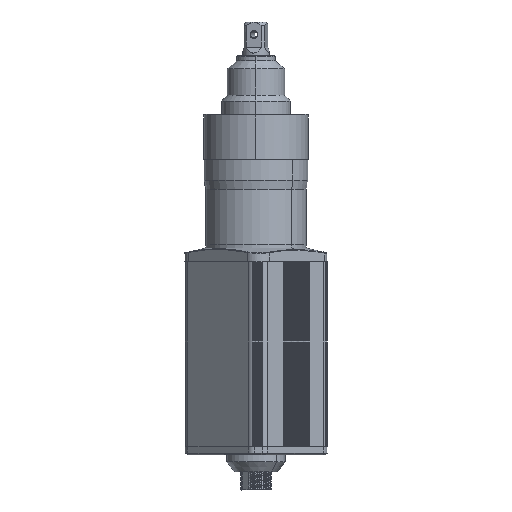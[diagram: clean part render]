
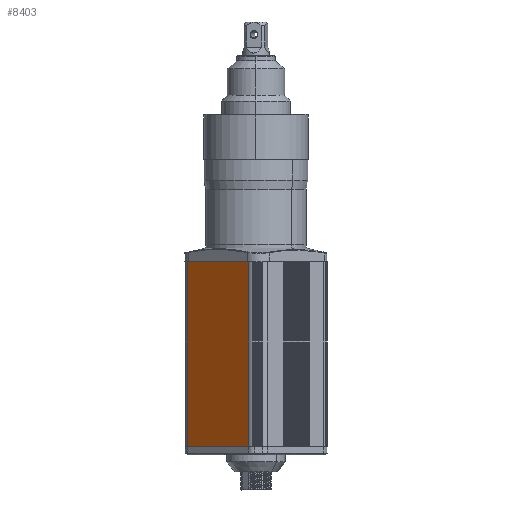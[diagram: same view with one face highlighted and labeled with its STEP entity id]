
A CAD part, left-side view. The second image highlights one B-rep face of the part: STEP entity #8403.
In plain terms, the highlighted planar face has unit normal (-0.707, 0.707, 0).
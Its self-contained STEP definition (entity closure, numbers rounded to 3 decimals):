
#97 = LINE ( 'NONE', #14692, #5560 ) ;
#946 = CARTESIAN_POINT ( 'NONE',  ( -4.293, 40.538, -60.5 ) ) ;
#1396 = CARTESIAN_POINT ( 'NONE',  ( -4.293, 40.538, -60.5 ) ) ;
#4142 = CARTESIAN_POINT ( 'NONE',  ( -4.293, 40.538, -60.5 ) ) ;
#5071 = DIRECTION ( 'NONE',  ( -0.707, -0.707, 0. ) ) ;
#5515 = EDGE_CURVE ( 'NONE', #9274, #23362, #31628, .T. ) ;
#5560 = VECTOR ( 'NONE', #14853, 1000. ) ;
#6119 = VECTOR ( 'NONE', #18591, 1000. ) ;
#6632 = ORIENTED_EDGE ( 'NONE', *, *, #18514, .T. ) ;
#6822 = VERTEX_POINT ( 'NONE', #25782 ) ;
#7027 = DIRECTION ( 'NONE',  ( 0., 0., 1. ) ) ;
#8403 = ADVANCED_FACE ( 'NONE', ( #21799 ), #27012, .F. ) ;
#9274 = VERTEX_POINT ( 'NONE', #946 ) ;
#9862 = CARTESIAN_POINT ( 'NONE',  ( -40.538, 4.293, -170.5 ) ) ;
#10069 = LINE ( 'NONE', #20451, #18448 ) ;
#11448 = DIRECTION ( 'NONE',  ( -0.707, -0.707, 0. ) ) ;
#11987 = EDGE_CURVE ( 'NONE', #23362, #12871, #97, .T. ) ;
#12352 = CARTESIAN_POINT ( 'NONE',  ( -40.538, 4.293, -60.5 ) ) ;
#12871 = VERTEX_POINT ( 'NONE', #9862 ) ;
#14692 = CARTESIAN_POINT ( 'NONE',  ( -40.538, 4.293, -60.5 ) ) ;
#14853 = DIRECTION ( 'NONE',  ( 0., 0., -1. ) ) ;
#16241 = AXIS2_PLACEMENT_3D ( 'NONE', #4142, #19524, #7027 ) ;
#18448 = VECTOR ( 'NONE', #5071, 1000. ) ;
#18514 = EDGE_CURVE ( 'NONE', #6822, #12871, #10069, .T. ) ;
#18591 = DIRECTION ( 'NONE',  ( 0., 0., -1. ) ) ;
#19085 = ORIENTED_EDGE ( 'NONE', *, *, #28098, .T. ) ;
#19524 = DIRECTION ( 'NONE',  ( 0.707, -0.707, 0. ) ) ;
#20451 = CARTESIAN_POINT ( 'NONE',  ( -4.293, 40.538, -170.5 ) ) ;
#20626 = ORIENTED_EDGE ( 'NONE', *, *, #11987, .F. ) ;
#21799 = FACE_OUTER_BOUND ( 'NONE', #26214, .T. ) ;
#23307 = CARTESIAN_POINT ( 'NONE',  ( -4.293, 40.538, -60.5 ) ) ;
#23362 = VERTEX_POINT ( 'NONE', #12352 ) ;
#25782 = CARTESIAN_POINT ( 'NONE',  ( -4.293, 40.538, -170.5 ) ) ;
#26214 = EDGE_LOOP ( 'NONE', ( #6632, #20626, #31354, #19085 ) ) ;
#27012 = PLANE ( 'NONE',  #16241 ) ;
#27668 = VECTOR ( 'NONE', #11448, 1000. ) ;
#28098 = EDGE_CURVE ( 'NONE', #9274, #6822, #30797, .T. ) ;
#30797 = LINE ( 'NONE', #23307, #6119 ) ;
#31354 = ORIENTED_EDGE ( 'NONE', *, *, #5515, .F. ) ;
#31628 = LINE ( 'NONE', #1396, #27668 ) ;
